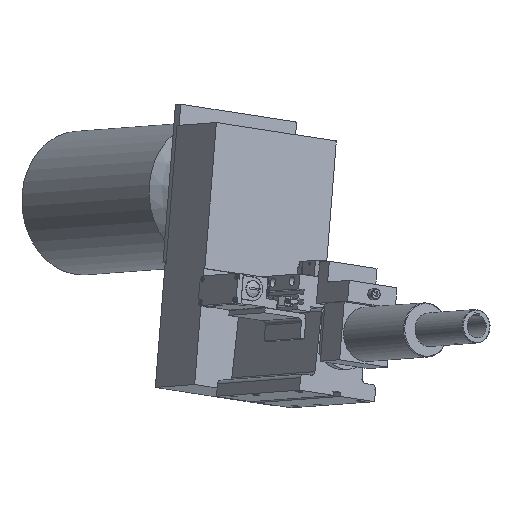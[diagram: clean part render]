
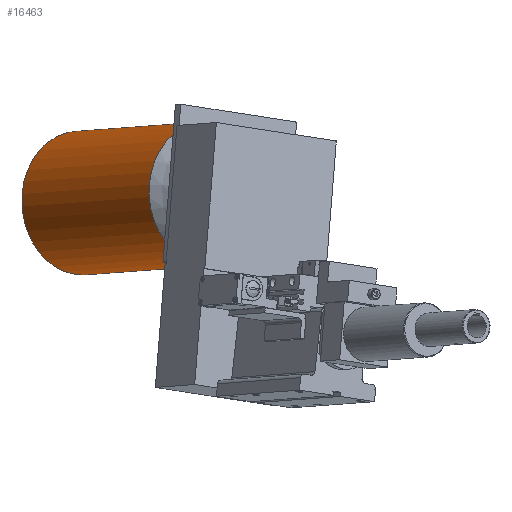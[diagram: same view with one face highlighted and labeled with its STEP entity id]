
A CAD part, front view. The second image highlights one B-rep face of the part: STEP entity #16463.
In plain terms, the highlighted cylindrical face has radius 86 mm (diameter 172 mm), a full revolution.
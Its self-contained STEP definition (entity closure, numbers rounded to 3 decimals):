
#16436=CARTESIAN_POINT('',(-180.52,299.17,279.067));
#16437=DIRECTION('',(0.574,-0.818,0.042));
#16438=DIRECTION('',(0.815,0.566,-0.125));
#16439=AXIS2_PLACEMENT_3D('',#16436,#16437,#16438);
#16440=CYLINDRICAL_SURFACE('',#16439,86.);
#16441=CARTESIAN_POINT('',(-34.35,239.504,273.904));
#16442=VERTEX_POINT('',#16441);
#16443=CARTESIAN_POINT('',(-104.432,190.841,284.695));
#16444=DIRECTION('',(0.574,-0.818,0.042));
#16445=DIRECTION('',(0.815,0.566,-0.125));
#16446=AXIS2_PLACEMENT_3D('',#16443,#16444,#16445);
#16447=CIRCLE('',#16446,86.);
#16448=EDGE_CURVE('',#16442,#16442,#16447,.T.);
#16449=ORIENTED_EDGE('',*,*,#16448,.F.);
#16450=EDGE_LOOP('',(#16449));
#16451=FACE_OUTER_BOUND('',#16450,.T.);
#16452=CARTESIAN_POINT('',(-186.526,456.162,262.648));
#16453=VERTEX_POINT('',#16452);
#16454=CARTESIAN_POINT('',(-256.608,407.499,273.439));
#16455=DIRECTION('',(0.574,-0.818,0.042));
#16456=DIRECTION('',(0.815,0.566,-0.125));
#16457=AXIS2_PLACEMENT_3D('',#16454,#16455,#16456);
#16458=CIRCLE('',#16457,86.);
#16459=EDGE_CURVE('',#16453,#16453,#16458,.T.);
#16460=ORIENTED_EDGE('',*,*,#16459,.T.);
#16461=EDGE_LOOP('',(#16460));
#16462=FACE_BOUND('',#16461,.T.);
#16463=ADVANCED_FACE('',(#16451,#16462),#16440,.T.);
